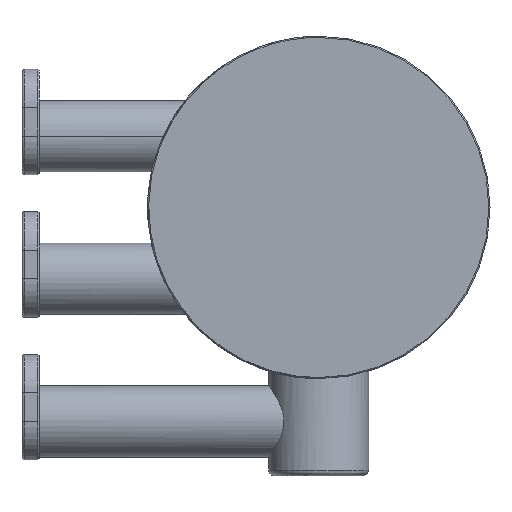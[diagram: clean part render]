
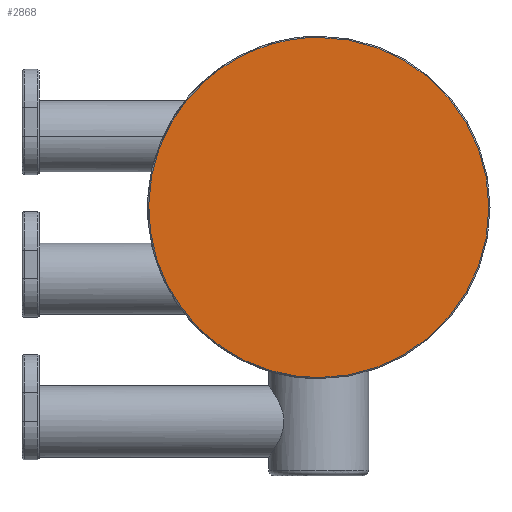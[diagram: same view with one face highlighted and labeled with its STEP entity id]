
A CAD part, front view. The second image highlights one B-rep face of the part: STEP entity #2868.
In plain terms, the highlighted planar face has unit normal (0, -1, 0).
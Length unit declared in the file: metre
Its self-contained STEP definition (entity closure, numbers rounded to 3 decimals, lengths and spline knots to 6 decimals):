
#2492=EDGE_CURVE('',#2493,#2495,#2497,.F.);
#2493=VERTEX_POINT('',#2494);
#2494=CARTESIAN_POINT('',(0.0,-0.014,-0.0298));
#2495=VERTEX_POINT('',#2496);
#2496=CARTESIAN_POINT('',(0.0,-0.014,0.0298));
#2497=CIRCLE('',#2498,0.0298);
#2498=AXIS2_PLACEMENT_3D('',#2499,#2500,#2501);
#2499=CARTESIAN_POINT('',(0.0,-0.014,0.0));
#2500=DIRECTION('',(0.0,1.0,0.0));
#2501=DIRECTION('',(0.0,0.0,1.0));
#2868=ADVANCED_FACE('',(#2874),#2869,.F.);
#2869=PLANE('',#2870);
#2870=AXIS2_PLACEMENT_3D('',#2871,#2872,#2873);
#2871=CARTESIAN_POINT('',(0.0,-0.014,0.03));
#2872=DIRECTION('',(0.0,1.0,0.0));
#2873=DIRECTION('',(0.0,0.0,1.0));
#2874=FACE_OUTER_BOUND('',#2875,.T.);
#2875=EDGE_LOOP('',(#2876,#2884));
#2876=ORIENTED_EDGE('',*,*,#2878,.T.);
#2877=CARTESIAN_POINT('',(0.0,-0.014,-0.0298));
#2878=EDGE_CURVE('',#2495,#2493,#2879,.F.);
#2879=(B_SPLINE_CURVE(3,(#2877,#2880,#2881,#2882),.UNSPECIFIED.,.F.,.U.)B_SPLINE_CURVE_WITH_KNOTS(
  (4,4),(0.0,1.0),.UNSPECIFIED.)BOUNDED_CURVE()CURVE()GEOMETRIC_REPRESENTATION_ITEM(
  )RATIONAL_B_SPLINE_CURVE((1.0,0.333,0.333,1.0)
  )REPRESENTATION_ITEM(''));
#2880=CARTESIAN_POINT('',(-0.0596,-0.014,-0.0298));
#2881=CARTESIAN_POINT('',(-0.0596,-0.014,0.0298));
#2882=CARTESIAN_POINT('',(0.0,-0.014,0.0298));
#2884=ORIENTED_EDGE('',*,*,#2492,.T.);
